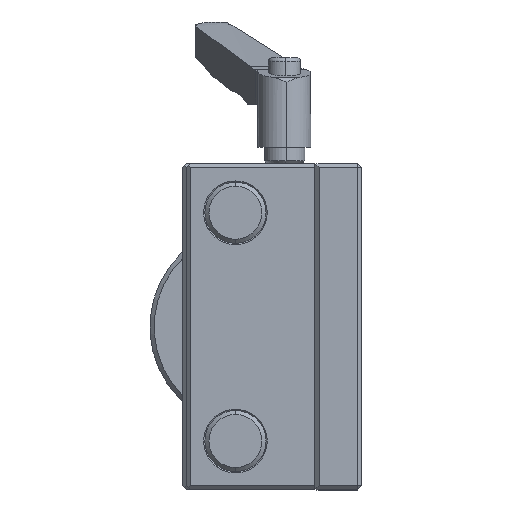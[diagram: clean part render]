
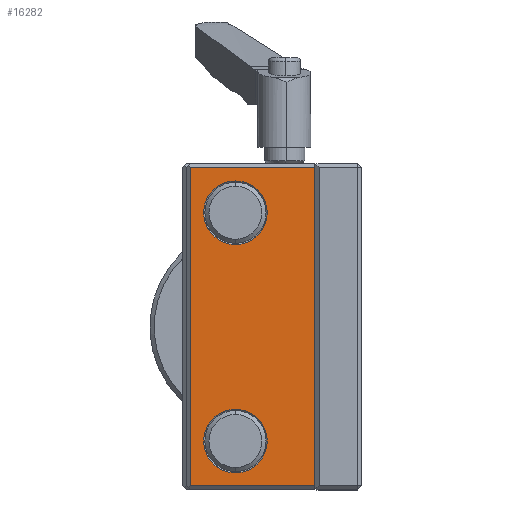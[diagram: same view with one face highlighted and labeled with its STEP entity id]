
A CAD part, left-side view. The second image highlights one B-rep face of the part: STEP entity #16282.
In plain terms, the highlighted planar face has unit normal (-1, 0, 0).
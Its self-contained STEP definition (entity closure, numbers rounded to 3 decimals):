
#35 = CARTESIAN_POINT ( 'NONE',  ( -110., 42., -39. ) ) ;
#596 = VERTEX_POINT ( 'NONE', #35 ) ;
#687 = ORIENTED_EDGE ( 'NONE', *, *, #20828, .T. ) ;
#709 = LINE ( 'NONE', #6790, #17282 ) ;
#1161 = AXIS2_PLACEMENT_3D ( 'NONE', #21203, #5373, #5604 ) ;
#1570 = CARTESIAN_POINT ( 'NONE',  ( -110., 31., -28. ) ) ;
#1872 = CARTESIAN_POINT ( 'NONE',  ( -110., 11.5, -39. ) ) ;
#2728 = FACE_BOUND ( 'NONE', #9683, .T. ) ;
#3182 = DIRECTION ( 'NONE',  ( 0., 0., 1. ) ) ;
#4664 = DIRECTION ( 'NONE',  ( 1., 0., 0. ) ) ;
#4725 = DIRECTION ( 'NONE',  ( 0., 0., 1. ) ) ;
#4930 = DIRECTION ( 'NONE',  ( 0., 1., 0. ) ) ;
#5000 = DIRECTION ( 'NONE',  ( 1., 0., 0. ) ) ;
#5120 = DIRECTION ( 'NONE',  ( 0., 0., 1. ) ) ;
#5373 = DIRECTION ( 'NONE',  ( 1., 0., 0. ) ) ;
#5604 = DIRECTION ( 'NONE',  ( 0., 0., 1. ) ) ;
#5774 = PLANE ( 'NONE',  #6691 ) ;
#6149 = VERTEX_POINT ( 'NONE', #22985 ) ;
#6218 = VERTEX_POINT ( 'NONE', #9570 ) ;
#6411 = DIRECTION ( 'NONE',  ( 0., 0., 1. ) ) ;
#6691 = AXIS2_PLACEMENT_3D ( 'NONE', #9391, #8229, #3182 ) ;
#6790 = CARTESIAN_POINT ( 'NONE',  ( -110., 11.5, -39. ) ) ;
#6913 = LINE ( 'NONE', #14044, #19769 ) ;
#7199 = EDGE_CURVE ( 'NONE', #11917, #22537, #23070, .T. ) ;
#7502 = CARTESIAN_POINT ( 'NONE',  ( -110., 31., -35.8 ) ) ;
#7617 = DIRECTION ( 'NONE',  ( 0., 0., -1. ) ) ;
#8229 = DIRECTION ( 'NONE',  ( -1., 0., 0. ) ) ;
#8471 = VERTEX_POINT ( 'NONE', #8667 ) ;
#8667 = CARTESIAN_POINT ( 'NONE',  ( -110., 31., -20.2 ) ) ;
#9391 = CARTESIAN_POINT ( 'NONE',  ( -110., 11.5, 40. ) ) ;
#9570 = CARTESIAN_POINT ( 'NONE',  ( -110., 11.5, 39. ) ) ;
#9636 = ORIENTED_EDGE ( 'NONE', *, *, #11685, .T. ) ;
#9683 = EDGE_LOOP ( 'NONE', ( #13165, #9636 ) ) ;
#9850 = VERTEX_POINT ( 'NONE', #7502 ) ;
#10410 = DIRECTION ( 'NONE',  ( 0., -1., 0. ) ) ;
#10934 = AXIS2_PLACEMENT_3D ( 'NONE', #1570, #5000, #5120 ) ;
#11685 = EDGE_CURVE ( 'NONE', #9850, #8471, #21057, .T. ) ;
#11802 = CARTESIAN_POINT ( 'NONE',  ( -110., 31., 35.8 ) ) ;
#11917 = VERTEX_POINT ( 'NONE', #15501 ) ;
#11952 = EDGE_CURVE ( 'NONE', #6149, #596, #16513, .T. ) ;
#13165 = ORIENTED_EDGE ( 'NONE', *, *, #18162, .T. ) ;
#13607 = CARTESIAN_POINT ( 'NONE',  ( -110., 31., 28. ) ) ;
#13977 = EDGE_LOOP ( 'NONE', ( #19960, #18175 ) ) ;
#14044 = CARTESIAN_POINT ( 'NONE',  ( -110., 11.5, 40. ) ) ;
#15386 = CIRCLE ( 'NONE', #1161, 7.8 ) ;
#15501 = CARTESIAN_POINT ( 'NONE',  ( -110., 31., 20.2 ) ) ;
#15572 = EDGE_CURVE ( 'NONE', #6218, #20671, #6913, .T. ) ;
#15825 = VECTOR ( 'NONE', #7617, 1000. ) ;
#16166 = ORIENTED_EDGE ( 'NONE', *, *, #22102, .T. ) ;
#16282 = ADVANCED_FACE ( 'NONE', ( #18779, #2728, #17022 ), #5774, .T. ) ;
#16513 = LINE ( 'NONE', #18170, #15825 ) ;
#16514 = CIRCLE ( 'NONE', #21763, 7.8 ) ;
#17022 = FACE_OUTER_BOUND ( 'NONE', #21585, .T. ) ;
#17282 = VECTOR ( 'NONE', #10410, 1000. ) ;
#18162 = EDGE_CURVE ( 'NONE', #8471, #9850, #15386, .T. ) ;
#18170 = CARTESIAN_POINT ( 'NONE',  ( -110., 42., -39. ) ) ;
#18175 = ORIENTED_EDGE ( 'NONE', *, *, #7199, .T. ) ;
#18430 = EDGE_CURVE ( 'NONE', #22537, #11917, #16514, .T. ) ;
#18449 = ORIENTED_EDGE ( 'NONE', *, *, #11952, .T. ) ;
#18779 = FACE_BOUND ( 'NONE', #13977, .T. ) ;
#19189 = CARTESIAN_POINT ( 'NONE',  ( -110., 31., 28. ) ) ;
#19331 = AXIS2_PLACEMENT_3D ( 'NONE', #13607, #20789, #4725 ) ;
#19769 = VECTOR ( 'NONE', #21449, 1000. ) ;
#19960 = ORIENTED_EDGE ( 'NONE', *, *, #18430, .T. ) ;
#20671 = VERTEX_POINT ( 'NONE', #1872 ) ;
#20789 = DIRECTION ( 'NONE',  ( 1., 0., 0. ) ) ;
#20828 = EDGE_CURVE ( 'NONE', #596, #20671, #709, .T. ) ;
#20879 = CARTESIAN_POINT ( 'NONE',  ( -110., 42., 39. ) ) ;
#20986 = LINE ( 'NONE', #20879, #21607 ) ;
#21057 = CIRCLE ( 'NONE', #10934, 7.8 ) ;
#21203 = CARTESIAN_POINT ( 'NONE',  ( -110., 31., -28. ) ) ;
#21449 = DIRECTION ( 'NONE',  ( 0., 0., -1. ) ) ;
#21585 = EDGE_LOOP ( 'NONE', ( #18449, #687, #22494, #16166 ) ) ;
#21607 = VECTOR ( 'NONE', #4930, 1000. ) ;
#21763 = AXIS2_PLACEMENT_3D ( 'NONE', #19189, #4664, #6411 ) ;
#22102 = EDGE_CURVE ( 'NONE', #6218, #6149, #20986, .T. ) ;
#22494 = ORIENTED_EDGE ( 'NONE', *, *, #15572, .F. ) ;
#22537 = VERTEX_POINT ( 'NONE', #11802 ) ;
#22985 = CARTESIAN_POINT ( 'NONE',  ( -110., 42., 39. ) ) ;
#23070 = CIRCLE ( 'NONE', #19331, 7.8 ) ;
